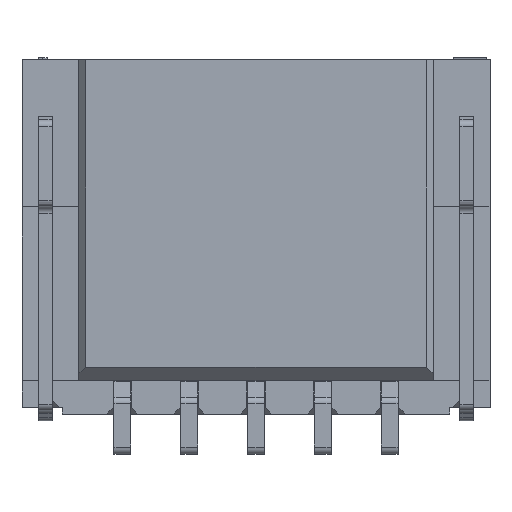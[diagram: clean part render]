
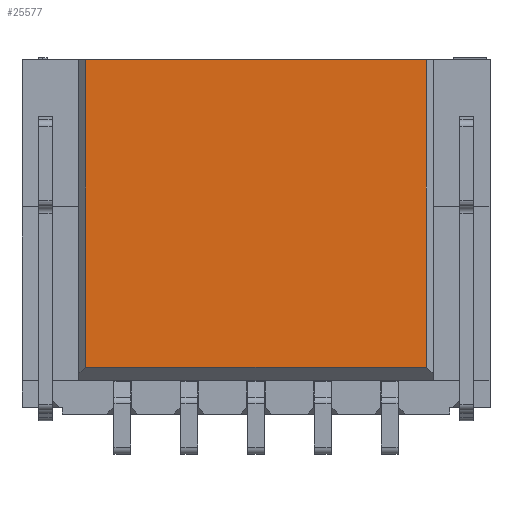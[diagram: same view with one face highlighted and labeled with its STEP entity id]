
A CAD part, front view. The second image highlights one B-rep face of the part: STEP entity #25577.
In plain terms, the highlighted planar face has unit normal (0, -1, 0).
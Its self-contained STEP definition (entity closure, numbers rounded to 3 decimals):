
#281 = DIRECTION ( 'NONE',  ( 0., 0., 1. ) ) ;
#1467 = VECTOR ( 'NONE', #16112, 1000. ) ;
#1572 = VERTEX_POINT ( 'NONE', #13278 ) ;
#2241 = VERTEX_POINT ( 'NONE', #6391 ) ;
#2611 = VECTOR ( 'NONE', #281, 1000. ) ;
#3077 = DIRECTION ( 'NONE',  ( -1., 0., 0. ) ) ;
#3467 = CARTESIAN_POINT ( 'NONE',  ( 6.05, 0., -4.63 ) ) ;
#3783 = LINE ( 'NONE', #4183, #1467 ) ;
#4050 = VECTOR ( 'NONE', #23854, 1000. ) ;
#4183 = CARTESIAN_POINT ( 'NONE',  ( 0.95, 0., -4.63 ) ) ;
#4670 = EDGE_LOOP ( 'NONE', ( #15976, #14893, #22345, #20841 ) ) ;
#5994 = VECTOR ( 'NONE', #3077, 1000. ) ;
#6170 = LINE ( 'NONE', #14338, #2611 ) ;
#6391 = CARTESIAN_POINT ( 'NONE',  ( 0.95, 0., -4.63 ) ) ;
#7974 = PLANE ( 'NONE',  #10072 ) ;
#9307 = EDGE_CURVE ( 'NONE', #12769, #23067, #23595, .T. ) ;
#9365 = EDGE_CURVE ( 'NONE', #2241, #12769, #3783, .T. ) ;
#9486 = LINE ( 'NONE', #3467, #5994 ) ;
#9862 = FACE_OUTER_BOUND ( 'NONE', #4670, .T. ) ;
#10072 = AXIS2_PLACEMENT_3D ( 'NONE', #20290, #12272, #22027 ) ;
#11087 = CARTESIAN_POINT ( 'NONE',  ( 6.05, 0., -0.03 ) ) ;
#11563 = CARTESIAN_POINT ( 'NONE',  ( 0.95, 0., -0.03 ) ) ;
#11997 = EDGE_CURVE ( 'NONE', #1572, #23067, #6170, .T. ) ;
#12272 = DIRECTION ( 'NONE',  ( 0., 1., 0. ) ) ;
#12769 = VERTEX_POINT ( 'NONE', #14917 ) ;
#13278 = CARTESIAN_POINT ( 'NONE',  ( 6.05, 0., -4.63 ) ) ;
#14338 = CARTESIAN_POINT ( 'NONE',  ( 6.05, 0., -4.63 ) ) ;
#14893 = ORIENTED_EDGE ( 'NONE', *, *, #11997, .T. ) ;
#14917 = CARTESIAN_POINT ( 'NONE',  ( 0.95, 0., -0.03 ) ) ;
#15976 = ORIENTED_EDGE ( 'NONE', *, *, #21882, .F. ) ;
#16112 = DIRECTION ( 'NONE',  ( 0., 0., 1. ) ) ;
#20290 = CARTESIAN_POINT ( 'NONE',  ( 3.5, 0., -2.33 ) ) ;
#20841 = ORIENTED_EDGE ( 'NONE', *, *, #9365, .F. ) ;
#21882 = EDGE_CURVE ( 'NONE', #1572, #2241, #9486, .T. ) ;
#22027 = DIRECTION ( 'NONE',  ( 1., 0., 0. ) ) ;
#22345 = ORIENTED_EDGE ( 'NONE', *, *, #9307, .F. ) ;
#23067 = VERTEX_POINT ( 'NONE', #11087 ) ;
#23595 = LINE ( 'NONE', #11563, #4050 ) ;
#23854 = DIRECTION ( 'NONE',  ( 1., 0., 0. ) ) ;
#25577 = ADVANCED_FACE ( 'NONE', ( #9862 ), #7974, .F. ) ;
